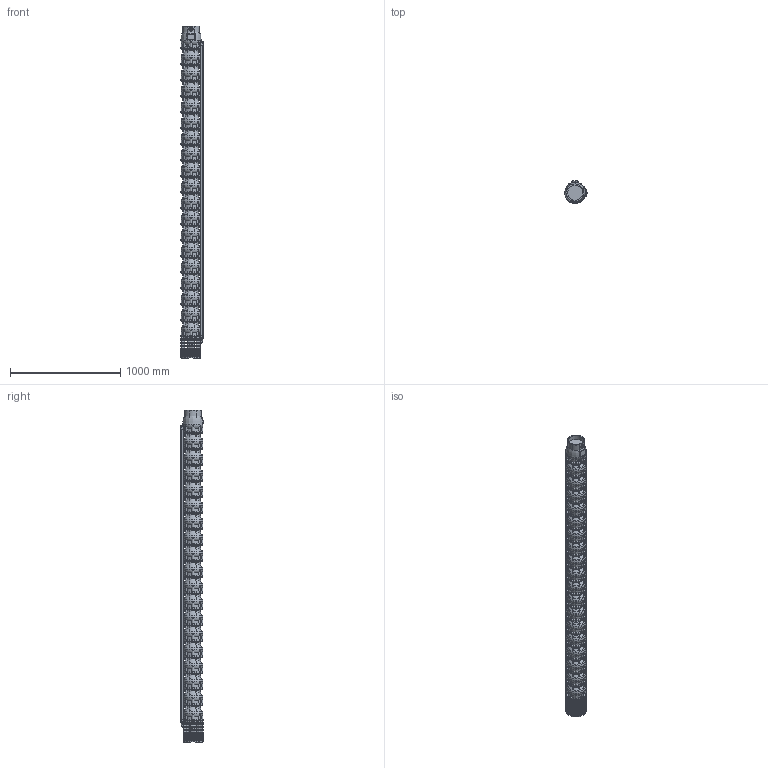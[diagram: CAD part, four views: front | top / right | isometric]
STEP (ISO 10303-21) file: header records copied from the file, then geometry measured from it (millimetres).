
FILE_DESCRIPTION(/* description */ ('Unknown'),/* implementation_level */ '2;1');
FILE_NAME(/* name */ 'VSI134-18_WR_M8-50_SLE',/* time_stamp */ '2023-09-14T14:53:54+02:00',/* author */ ('Unknown'),/* organization */ ('Unknown'),/* preprocessor_version */ 'ST-DEVELOPER v18.102',/* originating_system */ 'Solid Edge',/* authorisation */ 'Unknown');
FILE_SCHEMA (('AUTOMOTIVE_DESIGN {1 0 10303 214 3 1 1}'));
Products named in the file (11): VSI134-18_WR_M8-50_SLE; VSI134_testata; VSI134_diffusore; VSI134_supporto_8×8; VSI134_filtro_A; VSI134_filtro_B; VSI134_terminale_top_copricavo_basso; VSI134_terminale_bottom_copricavo_basso; LOW 134-18; M5X8_UNI7687; VSI134_giunto_8×8
Assembly tree (41 placements, depth 2):
  VSI134-18_WR_M8-50_SLE
    VSI134_testata
    VSI134_diffusore  x18
    VSI134_supporto_8×8
    VSI134_filtro_A
    VSI134_filtro_B
    VSI134_terminale_top_copricavo_basso  x2
    VSI134_terminale_bottom_copricavo_basso  x2
    LOW 134-18  x2
    M5X8_UNI7687  x12
    VSI134_giunto_8×8
Bounding box: 201.57 x 202.09 x 3007 mm (x, y, z)
Volume: 56242100.8 mm3; surface area: 4568293.1 mm2
Topology: 80 solids, 82 shells, 5577 faces, 15737 edges, 10510 vertices
Faces by surface type: plane 3912, torus 830, cylinder 717, cone 73, bspline 31, sphere 14
Full cylindrical faces by diameter (mm): 2.4 x2, 3 x2, 4.2 x16, 5 x12, 5.5 x8, 26 x1, 44 x1, 69 x1, 74 x1, 98 x1, 135.472 x1, 157 x1, 182 x19
Entity records: 85641 total; most frequent: CARTESIAN_POINT 18374, ORIENTED_EDGE 14056, DIRECTION 13512, EDGE_CURVE 7028, VERTEX_POINT 4730, AXIS2_PLACEMENT_3D 4607, LINE 4298, VECTOR 4298
